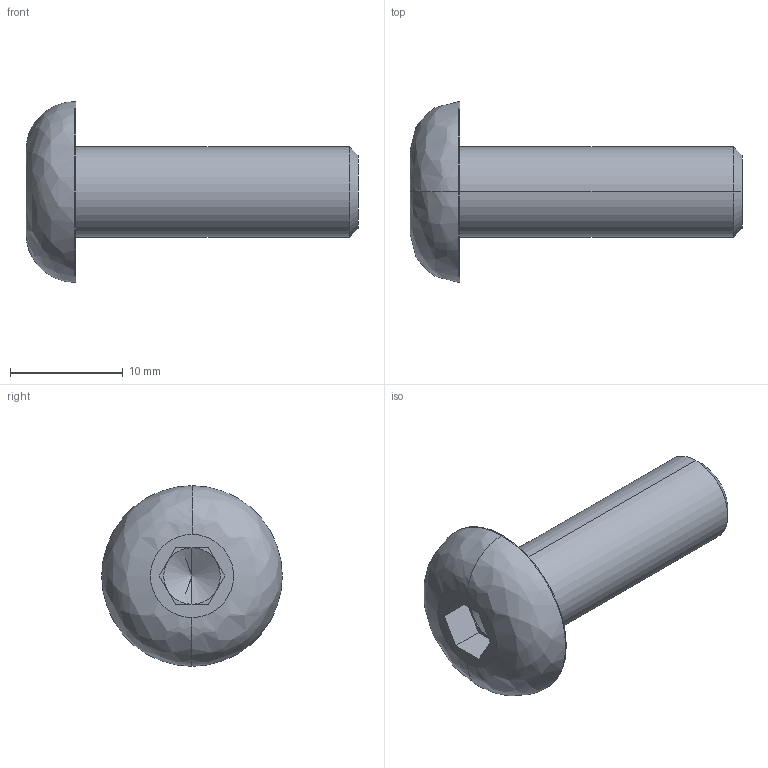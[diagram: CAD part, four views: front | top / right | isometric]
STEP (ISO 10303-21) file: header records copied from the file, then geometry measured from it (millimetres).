
FILE_DESCRIPTION (( 'STEP AP214' ), '1' );
FILE_NAME ('ISO7380_8x25.STEP', '2016-05-18T14:44:23', ( '' ), ( '' ), 'SwSTEP 2.0', 'SolidWorks 2014', '' );
FILE_SCHEMA (( 'AUTOMOTIVE_DESIGN' ));
Length unit declared in the file: millimetre
Products named in the file (1): ISO7380_8x25
Bounding box: 29.4 x 16 x 16 mm (x, y, z)
Volume: 1884.1 mm3; surface area: 1192.1 mm2
Topology: 1 solids, 1 shells, 27 faces, 59 edges, 34 vertices
Faces by surface type: plane 15, cylinder 6, cone 4, bspline 2
Entity records: 771 total; most frequent: CARTESIAN_POINT 158, DIRECTION 126, ORIENTED_EDGE 114, EDGE_CURVE 57, AXIS2_PLACEMENT_3D 46, LINE 34, VECTOR 34, VERTEX_POINT 34
